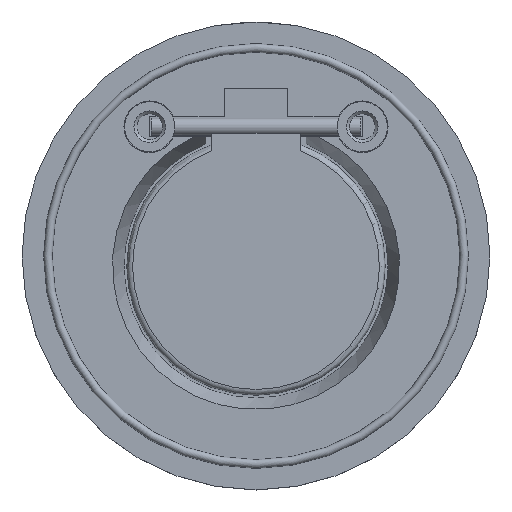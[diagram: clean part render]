
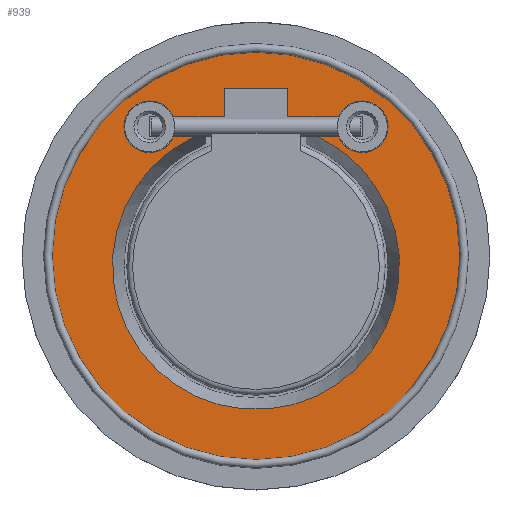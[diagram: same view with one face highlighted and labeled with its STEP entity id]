
A CAD part, top view. The second image highlights one B-rep face of the part: STEP entity #939.
In plain terms, the highlighted planar face has unit normal (0, 0, 1).
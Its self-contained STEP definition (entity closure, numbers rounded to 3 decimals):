
#33=FACE_BOUND('',#190,.T.);
#50=CIRCLE('',#1020,71.);
#52=CIRCLE('',#1023,9.);
#54=CIRCLE('',#1031,9.);
#55=CIRCLE('',#1033,50.);
#130=FACE_OUTER_BOUND('',#189,.T.);
#189=EDGE_LOOP('',(#642));
#190=EDGE_LOOP('',(#643,#644,#645,#646,#647,#648,#649,#650,#651,#652));
#251=LINE('',#1410,#315);
#259=LINE('',#1425,#323);
#262=LINE('',#1431,#326);
#265=LINE('',#1437,#329);
#269=LINE('',#1446,#333);
#283=LINE('',#1486,#347);
#284=LINE('',#1489,#348);
#315=VECTOR('',#1126,17.708);
#323=VECTOR('',#1136,10.);
#326=VECTOR('',#1141,22.);
#329=VECTOR('',#1146,10.);
#333=VECTOR('',#1152,17.708);
#347=VECTOR('',#1196,6.914);
#348=VECTOR('',#1199,6.914);
#379=VERTEX_POINT('',#1408);
#380=VERTEX_POINT('',#1409);
#385=VERTEX_POINT('',#1421);
#387=VERTEX_POINT('',#1427);
#389=VERTEX_POINT('',#1433);
#394=VERTEX_POINT('',#1445);
#396=VERTEX_POINT('',#1451);
#398=VERTEX_POINT('',#1457);
#404=VERTEX_POINT('',#1481);
#405=VERTEX_POINT('',#1485);
#406=VERTEX_POINT('',#1487);
#460=EDGE_CURVE('',#379,#380,#251,.T.);
#468=EDGE_CURVE('',#380,#385,#259,.T.);
#471=EDGE_CURVE('',#385,#387,#262,.T.);
#474=EDGE_CURVE('',#387,#389,#265,.F.);
#478=EDGE_CURVE('',#389,#394,#269,.T.);
#482=EDGE_CURVE('',#396,#396,#50,.T.);
#484=EDGE_CURVE('',#394,#398,#52,.F.);
#496=EDGE_CURVE('',#404,#379,#54,.F.);
#498=EDGE_CURVE('',#404,#405,#283,.F.);
#499=EDGE_CURVE('',#405,#406,#55,.F.);
#500=EDGE_CURVE('',#406,#398,#284,.F.);
#642=ORIENTED_EDGE('',*,*,#482,.F.);
#643=ORIENTED_EDGE('',*,*,#498,.T.);
#644=ORIENTED_EDGE('',*,*,#499,.T.);
#645=ORIENTED_EDGE('',*,*,#500,.T.);
#646=ORIENTED_EDGE('',*,*,#484,.F.);
#647=ORIENTED_EDGE('',*,*,#478,.F.);
#648=ORIENTED_EDGE('',*,*,#474,.F.);
#649=ORIENTED_EDGE('',*,*,#471,.F.);
#650=ORIENTED_EDGE('',*,*,#468,.F.);
#651=ORIENTED_EDGE('',*,*,#460,.F.);
#652=ORIENTED_EDGE('',*,*,#496,.F.);
#836=PLANE('',#1032);
#939=ADVANCED_FACE('',(#130,#33),#836,.F.);
#1020=AXIS2_PLACEMENT_3D('',#1453,#1159,#1160);
#1023=AXIS2_PLACEMENT_3D('',#1458,#1165,#1166);
#1031=AXIS2_PLACEMENT_3D('',#1482,#1191,#1192);
#1032=AXIS2_PLACEMENT_3D('',#1484,#1194,#1195);
#1033=AXIS2_PLACEMENT_3D('',#1488,#1197,#1198);
#1126=DIRECTION('',(-1.,0.,0.));
#1136=DIRECTION('',(0.,1.,0.));
#1141=DIRECTION('',(-1.,0.,0.));
#1146=DIRECTION('',(0.,1.,0.));
#1152=DIRECTION('',(-1.,0.,0.));
#1159=DIRECTION('center_axis',(0.,0.,-1.));
#1160=DIRECTION('ref_axis',(-1.,0.,0.));
#1165=DIRECTION('center_axis',(0.,0.,-1.));
#1166=DIRECTION('ref_axis',(-1.,0.,0.));
#1191=DIRECTION('center_axis',(0.,0.,-1.));
#1192=DIRECTION('ref_axis',(-1.,0.,0.));
#1194=DIRECTION('center_axis',(0.,0.,-1.));
#1195=DIRECTION('ref_axis',(-1.,0.,0.));
#1196=DIRECTION('',(1.,0.,0.));
#1197=DIRECTION('center_axis',(0.,0.,1.));
#1198=DIRECTION('ref_axis',(1.,0.,0.));
#1199=DIRECTION('',(1.,0.,0.));
#1408=CARTESIAN_POINT('',(28.708,48.5,0.));
#1409=CARTESIAN_POINT('',(11.,48.5,0.));
#1410=CARTESIAN_POINT('',(28.708,48.5,0.));
#1421=CARTESIAN_POINT('',(11.,58.5,0.));
#1425=CARTESIAN_POINT('',(11.,48.5,0.));
#1427=CARTESIAN_POINT('',(-11.,58.5,0.));
#1431=CARTESIAN_POINT('',(11.,58.5,0.));
#1433=CARTESIAN_POINT('',(-11.,48.5,0.));
#1437=CARTESIAN_POINT('',(-11.,48.5,0.));
#1445=CARTESIAN_POINT('',(-28.708,48.5,0.));
#1446=CARTESIAN_POINT('',(-11.,48.5,0.));
#1451=CARTESIAN_POINT('',(71.,0.,0.));
#1453=CARTESIAN_POINT('Origin',(0.,0.,0.));
#1457=CARTESIAN_POINT('',(-28.708,41.5,0.));
#1458=CARTESIAN_POINT('Origin',(-37.,45.,0.));
#1481=CARTESIAN_POINT('',(28.708,41.5,0.));
#1482=CARTESIAN_POINT('Origin',(37.,45.,0.));
#1484=CARTESIAN_POINT('Origin',(0.,0.,0.));
#1485=CARTESIAN_POINT('',(21.794,41.5,0.));
#1486=CARTESIAN_POINT('',(21.794,41.5,0.));
#1487=CARTESIAN_POINT('',(-21.794,41.5,0.));
#1488=CARTESIAN_POINT('Origin',(0.,-3.5,0.));
#1489=CARTESIAN_POINT('',(-28.708,41.5,0.));
